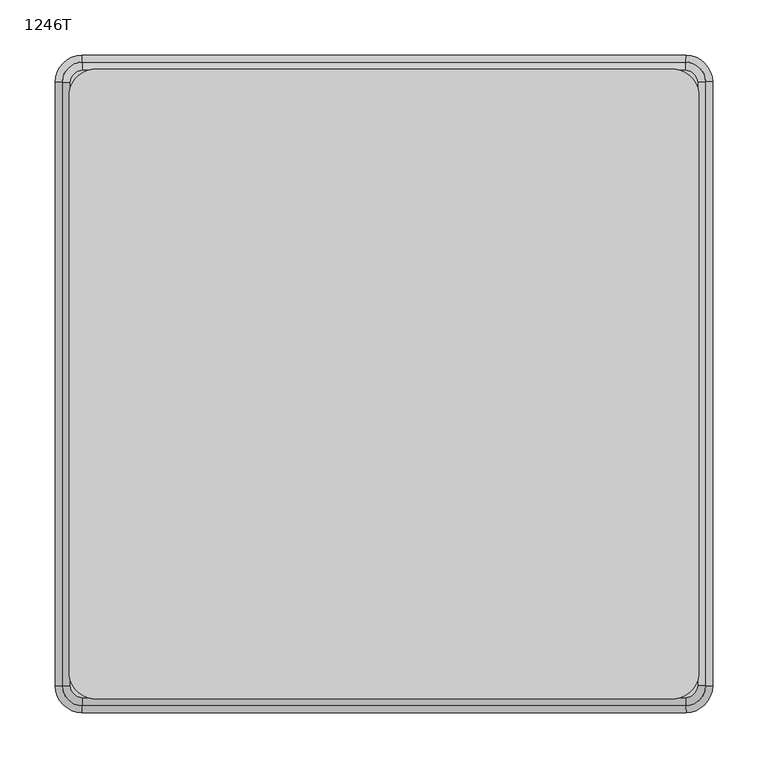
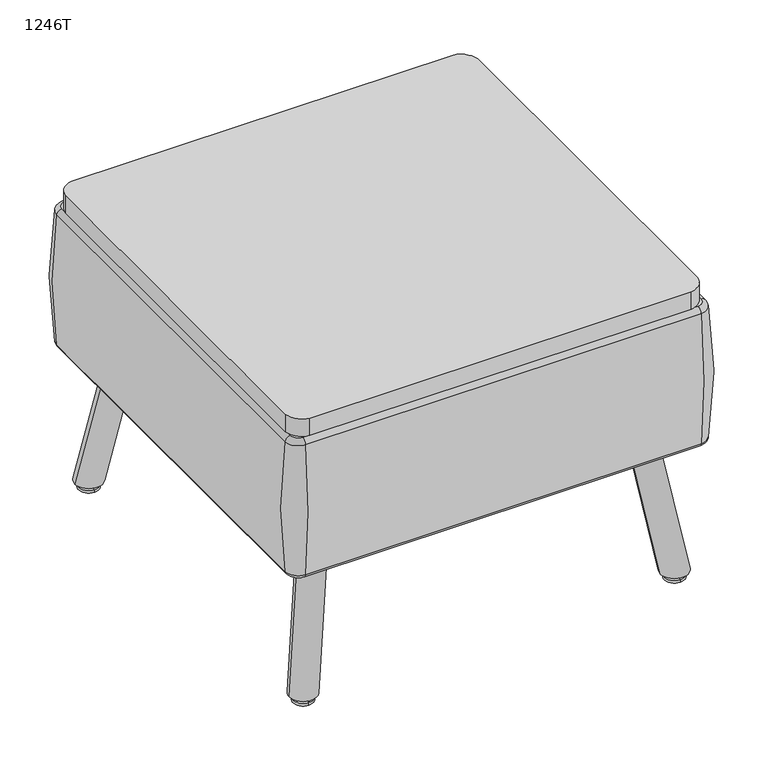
"""IFC4 building model written with IfcOpenShell, lengths in millimetres: furniture geometry, Laguna-Square_Ottomans-With_Legs-ERG : 1246T."""

from ifc_helpers import new_model, si_unit, point, frame, frame_2d, origin, place, context, project, spatial, polyline, circle_curve, ellipse_curve, trimmed, segment, composite_curve, outline, extrude, source, transform, mapped, element, save
from ifc_brep_helpers import plane_surface, cylinder_surface, revolved_surface, spline_surface, advanced_brep


def furniture_1246t_65d32d9d(model_context):
    return source(origin(), model_context, "Body", "SolidModel", [
        extrude(outline(composite_curve([segment(trimmed(circle_curve(frame_2d((-4097.3372587, 668.7509326)), 25.4), [point((-4072.2001244, 665.1061449))], [point((-4093.692471, 643.6137983))], False, "CARTESIAN"), True, "CONTINUOUS"), segment(trimmed(circle_curve(frame_2d((-4357.9421763, 6549.5759155)), 5911.8708069), [point((-4093.692471, 643.6137983))], [point((-4622.1918816, 643.6137983))], False, "CARTESIAN"), True, "CONTINUOUS"), segment(trimmed(circle_curve(frame_2d((-4618.5470939, 668.7509326)), 25.4), [point((-4622.1918816, 643.6137983))], [point((-4643.6842282, 665.1061449))], False, "CARTESIAN"), True, "CONTINUOUS"), segment(trimmed(circle_curve(frame_2d((1262.277889, 929.3558502)), 5911.8708069), [point((-4643.6842282, 665.1061449))], [point((-4643.6842282, 1193.6055555))], False, "CARTESIAN"), True, "CONTINUOUS"), segment(trimmed(circle_curve(frame_2d((-4618.5470939, 1189.9607677)), 25.4), [point((-4643.6842282, 1193.6055555))], [point((-4622.1918816, 1215.0979021))], False, "CARTESIAN"), True, "CONTINUOUS"), segment(trimmed(circle_curve(frame_2d((-4357.9421763, -4690.8642152)), 5911.8708069), [point((-4622.1918816, 1215.0979021))], [point((-4093.692471, 1215.0979021))], False, "CARTESIAN"), True, "CONTINUOUS"), segment(trimmed(circle_curve(frame_2d((-4097.3372587, 1189.9607677)), 25.4), [point((-4093.692471, 1215.0979021))], [point((-4072.2001244, 1193.6055555))], False, "CARTESIAN"), True, "CONTINUOUS"), segment(trimmed(circle_curve(frame_2d((-9978.1622416, 929.3558502)), 5911.8708069), [point((-4072.2001244, 1193.6055555))], [point((-4072.2001244, 665.1061449))], False, "CARTESIAN"), True, "CONTINUOUS")], self_intersect=False)), frame((0.0, 0.0, 406.4), z_axis=(0.0, 0.0, 1.0), x_axis=(1.0, 0.0, 0.0)), (0.0, 0.0, 1.0), 25.4),
        advanced_brep(
        [(-4631.6596005, 1213.9607848, 406.4), (-4642.547111, 1203.0732744, 406.4), (-4642.547111, 655.638426, 406.4), (-4631.6596005, 644.7509155, 406.4), (-4084.2247521, 644.7509155, 406.4), (-4073.3372416, 655.638426, 406.4), (-4073.3372416, 1203.0732744, 406.4), (-4084.2247521, 1213.9607848, 406.4), (-4642.547111, 1203.0732744, 203.2), (-4631.6596005, 1213.9607848, 203.2), (-4084.2247521, 1213.9607848, 203.2), (-4073.3372416, 1203.0732744, 203.2), (-4073.3372416, 655.638426, 203.2), (-4084.2247521, 644.7509155, 203.2), (-4631.6596005, 644.7509155, 203.2), (-4642.547111, 655.638426, 203.2), (-4650.0919814, 1203.4222653, 399.7887299), (-4632.0085914, 1221.5056552, 399.7887299), (-4632.0085914, 1221.5056552, 209.8112701), (-4650.0919814, 1203.4222653, 209.8112701), (-4650.0919814, 655.2894351, 209.8112701), (-4650.0919814, 655.2894351, 399.7887299), (-4632.0085914, 637.2060451, 209.8112701), (-4632.0085914, 637.2060451, 399.7887299), (-4083.8757612, 637.2060451, 209.8112701), (-4083.8757612, 637.2060451, 399.7887299), (-4065.7923712, 655.2894351, 209.8112701), (-4065.7923712, 655.2894351, 399.7887299), (-4065.7923712, 1203.4222653, 209.8112701), (-4065.7923712, 1203.4222653, 399.7887299), (-4083.8757612, 1221.5056552, 209.8112701), (-4083.8757612, 1221.5056552, 399.7887299)],
        [
            (0, 1, circle_curve(frame((-4631.1315702, 1202.5452441, 406.4), z_axis=(0.0, 0.0, 1.0), x_axis=(-0.04620598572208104, 0.9989319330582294, 0.0)), 11.4277464)),
            (1, 2, circle_curve(frame((1274.977889, 929.3558502, 406.4), z_axis=(0.0, 0.0, 1.0), x_axis=(-0.9989319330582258, 0.04620598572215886, 0.0)), 5923.8520706)),
            (2, 3, circle_curve(frame((-4631.1315702, 656.1664563, 406.4), z_axis=(0.0, 0.0, 1.0), x_axis=(-0.9989319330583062, -0.04620598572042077, 0.0)), 11.4277464)),
            (3, 4, circle_curve(frame((-4357.9421763, 6562.2759155, 406.4), z_axis=(0.0, 0.0, 1.0), x_axis=(-0.0462059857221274, -0.9989319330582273, 0.0)), 5923.8520706)),
            (4, 5, circle_curve(frame((-4084.7527824, 656.1664563, 406.4), z_axis=(0.0, 0.0, 1.0), x_axis=(0.04620598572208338, -0.9989319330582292, 0.0)), 11.4277464)),
            (5, 6, circle_curve(frame((-9990.8622416, 929.3558502, 406.4), z_axis=(0.0, 0.0, 1.0), x_axis=(0.9989319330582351, -0.04620598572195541, 0.0)), 5923.8520706)),
            (6, 7, circle_curve(frame((-4084.7527824, 1202.5452441, 406.4), z_axis=(0.0, 0.0, 1.0), x_axis=(0.9989319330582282, 0.046205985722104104, 0.0)), 11.4277464)),
            (7, 0, circle_curve(frame((-4357.9421763, -4703.5642152, 406.4), z_axis=(0.0, 0.0, 1.0), x_axis=(0.046205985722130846, 0.998931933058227, 0.0)), 5923.8520706)),
            (8, 9, circle_curve(frame((-4631.1315702, 1202.5452441, 203.2), z_axis=(0.0, 0.0, -1.0), x_axis=(-0.04620598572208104, 0.9989319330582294, 0.0)), 11.4277464)),
            (9, 10, circle_curve(frame((-4357.9421763, -4703.5642152, 203.2), z_axis=(0.0, 0.0, -1.0), x_axis=(0.046205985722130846, 0.998931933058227, 0.0)), 5923.8520706)),
            (10, 11, circle_curve(frame((-4084.7527824, 1202.5452441, 203.2), z_axis=(0.0, 0.0, -1.0), x_axis=(0.9989319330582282, 0.046205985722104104, 0.0)), 11.4277464)),
            (11, 12, circle_curve(frame((-9990.8622416, 929.3558502, 203.2), z_axis=(0.0, 0.0, -1.0), x_axis=(0.9989319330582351, -0.04620598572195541, 0.0)), 5923.8520706)),
            (12, 13, circle_curve(frame((-4084.7527824, 656.1664563, 203.2), z_axis=(0.0, 0.0, -1.0), x_axis=(0.04620598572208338, -0.9989319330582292, 0.0)), 11.4277464)),
            (13, 14, circle_curve(frame((-4357.9421763, 6562.2759155, 203.2), z_axis=(0.0, 0.0, -1.0), x_axis=(-0.0462059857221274, -0.9989319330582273, 0.0)), 5923.8520706)),
            (14, 15, circle_curve(frame((-4631.1315702, 656.1664563, 203.2), z_axis=(0.0, 0.0, -1.0), x_axis=(-0.9989319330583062, -0.04620598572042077, 0.0)), 11.4277464)),
            (15, 8, circle_curve(frame((1274.977889, 929.3558502, 203.2), z_axis=(0.0, 0.0, -1.0), x_axis=(-0.9989319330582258, 0.04620598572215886, 0.0)), 5923.8520706)),
            (16, 17, circle_curve(frame((-4631.1315702, 1202.5452441, 399.7887299), z_axis=(0.0, 0.0, -1.0), x_axis=(-0.04620598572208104, 0.9989319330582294, 0.0)), 18.9806838)),
            (17, 18, circle_curve(frame((-4599.1452798, 511.0303591, 304.8), z_axis=(-0.9989319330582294, -0.04620598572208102, 0.0), x_axis=(0.04620598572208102, -0.9989319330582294, 0.0)), 717.55)),
            (18, 19, circle_curve(frame((-4631.1315702, 1202.5452441, 209.8112701), z_axis=(0.0, 0.0, 1.0), x_axis=(-0.04620598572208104, 0.9989319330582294, 0.0)), 18.9806838)),
            (19, 16, circle_curve(frame((-3939.6166852, 1170.5589537, 304.8), z_axis=(0.04620598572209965, 0.9989319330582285, 0.0), x_axis=(0.9989319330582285, -0.04620598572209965, 0.0)), 717.55)),
            (16, 1, circle_curve(frame((-4642.547111, 1203.0732744, 398.78), z_axis=(0.04620598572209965, 0.9989319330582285, 0.0), x_axis=(0.9989319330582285, -0.04620598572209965, 0.0)), 7.62)),
            (0, 17, circle_curve(frame((-4631.6596005, 1213.9607848, 398.78), z_axis=(-0.9989319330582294, -0.04620598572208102, 0.0), x_axis=(0.04620598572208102, -0.9989319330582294, 0.0)), 7.62)),
            (18, 9, circle_curve(frame((-4631.6596005, 1213.9607848, 210.82), z_axis=(-0.9989319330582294, -0.04620598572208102, 0.0), x_axis=(0.04620598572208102, -0.9989319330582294, 0.0)), 7.62)),
            (8, 19, circle_curve(frame((-4642.547111, 1203.0732744, 210.82), z_axis=(0.046205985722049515, 0.9989319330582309, 0.0), x_axis=(0.9989319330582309, -0.046205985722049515, 0.0)), 7.62)),
            (19, 20, circle_curve(frame((1274.977889, 929.3558502, 209.8112701), z_axis=(0.0, 0.0, 1.0), x_axis=(-0.9989319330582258, 0.04620598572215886, 0.0)), 5931.405008)),
            (20, 21, circle_curve(frame((-3939.6166852, 688.1527467, 304.8), z_axis=(-0.04620598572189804, 0.9989319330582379, 0.0), x_axis=(0.9989319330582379, 0.04620598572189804, 0.0)), 717.55)),
            (21, 16, circle_curve(frame((1274.977889, 929.3558502, 399.7887299), z_axis=(0.0, 0.0, -1.0), x_axis=(-0.9989319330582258, 0.04620598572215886, 0.0)), 5931.405008)),
            (21, 2, circle_curve(frame((-4642.547111, 655.638426, 398.78), z_axis=(-0.04620598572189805, 0.9989319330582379, 0.0), x_axis=(0.9989319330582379, 0.04620598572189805, 0.0)), 7.62)),
            (15, 20, circle_curve(frame((-4642.547111, 655.638426, 210.82), z_axis=(-0.046205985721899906, 0.9989319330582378, 0.0), x_axis=(0.9989319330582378, 0.046205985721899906, 0.0)), 7.62)),
            (20, 22, circle_curve(frame((-4631.1315702, 656.1664563, 209.8112701), z_axis=(0.0, 0.0, 1.0), x_axis=(-0.9989319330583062, -0.04620598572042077, 0.0)), 18.9806838)),
            (22, 23, circle_curve(frame((-4599.1452798, 1347.6813412, 304.8), z_axis=(-0.9989319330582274, 0.0462059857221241, 0.0), x_axis=(0.0462059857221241, 0.9989319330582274, 0.0)), 717.55)),
            (23, 21, circle_curve(frame((-4631.1315702, 656.1664563, 399.7887299), z_axis=(0.0, 0.0, -1.0), x_axis=(-0.9989319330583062, -0.04620598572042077, 0.0)), 18.9806838)),
            (23, 3, circle_curve(frame((-4631.6596005, 644.7509155, 398.78), z_axis=(-0.9989319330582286, 0.04620598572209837, 0.0), x_axis=(0.04620598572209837, 0.9989319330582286, 0.0)), 7.62)),
            (14, 22, circle_curve(frame((-4631.6596005, 644.7509155, 210.82), z_axis=(-0.998931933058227, 0.04620598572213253, 0.0), x_axis=(0.04620598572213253, 0.998931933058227, 0.0)), 7.62)),
            (22, 24, circle_curve(frame((-4357.9421763, 6562.2759155, 209.8112701), z_axis=(0.0, 0.0, 1.0), x_axis=(-0.0462059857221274, -0.9989319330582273, 0.0)), 5931.405008)),
            (24, 25, circle_curve(frame((-4116.7390728, 1347.6813412, 304.8), z_axis=(-0.998931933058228, -0.04620598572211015, 0.0), x_axis=(-0.04620598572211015, 0.998931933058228, 0.0)), 717.55)),
            (25, 23, circle_curve(frame((-4357.9421763, 6562.2759155, 399.7887299), z_axis=(0.0, 0.0, -1.0), x_axis=(-0.0462059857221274, -0.9989319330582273, 0.0)), 5931.405008)),
            (25, 4, circle_curve(frame((-4084.2247521, 644.7509155, 398.78), z_axis=(-0.998931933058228, -0.04620598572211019, 0.0), x_axis=(-0.04620598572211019, 0.998931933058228, 0.0)), 7.62)),
            (13, 24, circle_curve(frame((-4084.2247521, 644.7509155, 210.82), z_axis=(-0.998931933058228, -0.046205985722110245, 0.0), x_axis=(-0.046205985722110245, 0.998931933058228, 0.0)), 7.62)),
            (24, 26, circle_curve(frame((-4084.7527824, 656.1664563, 209.8112701), z_axis=(0.0, 0.0, 1.0), x_axis=(0.04620598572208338, -0.9989319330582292, 0.0)), 18.9806838)),
            (26, 27, circle_curve(frame((-4776.2676674, 688.1527467, 304.8), z_axis=(-0.046205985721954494, -0.9989319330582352, 0.0), x_axis=(-0.9989319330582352, 0.046205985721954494, 0.0)), 717.55)),
            (27, 25, circle_curve(frame((-4084.7527824, 656.1664563, 399.7887299), z_axis=(0.0, 0.0, -1.0), x_axis=(0.04620598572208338, -0.9989319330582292, 0.0)), 18.9806838)),
            (27, 5, circle_curve(frame((-4073.3372416, 655.638426, 398.78), z_axis=(-0.046205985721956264, -0.9989319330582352, 0.0), x_axis=(-0.9989319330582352, 0.046205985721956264, 0.0)), 7.62)),
            (12, 26, circle_curve(frame((-4073.3372416, 655.638426, 210.82), z_axis=(-0.04620598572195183, -0.9989319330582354, 0.0), x_axis=(-0.9989319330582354, 0.04620598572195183, 0.0)), 7.62)),
            (26, 28, circle_curve(frame((-9990.8622416, 929.3558502, 209.8112701), z_axis=(0.0, 0.0, 1.0), x_axis=(0.9989319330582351, -0.04620598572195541, 0.0)), 5931.405008)),
            (28, 29, circle_curve(frame((-4776.2676674, 1170.5589537, 304.8), z_axis=(0.04620598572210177, -0.9989319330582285, 0.0), x_axis=(-0.9989319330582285, -0.04620598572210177, 0.0)), 717.55)),
            (29, 27, circle_curve(frame((-9990.8622416, 929.3558502, 399.7887299), z_axis=(0.0, 0.0, -1.0), x_axis=(0.9989319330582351, -0.04620598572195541, 0.0)), 5931.405008)),
            (29, 6, circle_curve(frame((-4073.3372416, 1203.0732744, 398.78), z_axis=(0.04620598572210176, -0.9989319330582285, 0.0), x_axis=(-0.9989319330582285, -0.04620598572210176, 0.0)), 7.62)),
            (11, 28, circle_curve(frame((-4073.3372416, 1203.0732744, 210.82), z_axis=(0.04620598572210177, -0.9989319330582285, 0.0), x_axis=(-0.9989319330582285, -0.04620598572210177, 0.0)), 7.62)),
            (28, 30, circle_curve(frame((-4084.7527824, 1202.5452441, 209.8112701), z_axis=(0.0, 0.0, 1.0), x_axis=(0.9989319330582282, 0.046205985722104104, 0.0)), 18.9806838)),
            (30, 31, circle_curve(frame((-4116.7390728, 511.0303591, 304.8), z_axis=(0.9989319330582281, -0.04620598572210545, 0.0), x_axis=(-0.04620598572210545, -0.9989319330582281, 0.0)), 717.55)),
            (31, 29, circle_curve(frame((-4084.7527824, 1202.5452441, 399.7887299), z_axis=(0.0, 0.0, -1.0), x_axis=(0.9989319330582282, 0.046205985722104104, 0.0)), 18.9806838)),
            (31, 7, circle_curve(frame((-4084.2247521, 1213.9607848, 398.78), z_axis=(0.998931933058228, -0.04620598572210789, 0.0), x_axis=(-0.04620598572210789, -0.998931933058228, 0.0)), 7.62)),
            (10, 30, circle_curve(frame((-4084.2247521, 1213.9607848, 210.82), z_axis=(0.9989319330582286, -0.04620598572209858, 0.0), x_axis=(-0.04620598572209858, -0.9989319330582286, 0.0)), 7.62)),
            (17, 31, circle_curve(frame((-4357.9421763, -4703.5642152, 399.7887299), z_axis=(0.0, 0.0, -1.0), x_axis=(0.046205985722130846, 0.998931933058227, 0.0)), 5931.405008)),
            (30, 18, circle_curve(frame((-4357.9421763, -4703.5642152, 209.8112701), z_axis=(0.0, 0.0, 1.0), x_axis=(0.046205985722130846, 0.998931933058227, 0.0)), 5931.405008)),
        ],
        [
            plane_surface(frame((-4619.7038238, 1202.5452441, 406.4), z_axis=(0.0, 0.0, 1.0), x_axis=(0.0, 1.0, 0.0))),
            plane_surface(frame((-4619.7038238, 1202.5452441, 203.2), z_axis=(0.0, 0.0, -1.0), x_axis=(0.0, -1.0, 0.0))),
            revolved_surface(trimmed(ellipse_curve(frame((-4599.1452798, 511.0303591, 304.8), z_axis=(0.9989319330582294, 0.04620598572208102, 0.0), x_axis=(0.04620598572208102, -0.9989319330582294, 0.0)), 717.55, 717.55), [point((-4632.0085914, 1221.5056552, 209.8112701))], [point((-4632.0085914, 1221.5056552, 399.7887299))], True, "CARTESIAN"), (-4631.1315702, 1202.5452441, 0.0), (0.0, 0.0, 1.0)),
            revolved_surface(trimmed(ellipse_curve(frame((-4631.6596005, 1213.9607848, 398.78), z_axis=(0.9989319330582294, 0.04620598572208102, 0.0), x_axis=(0.04620598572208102, -0.9989319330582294, 0.0)), 7.62, 7.62), [point((-4632.0085914, 1221.5056552, 399.7887299))], [point((-4631.6596005, 1213.9607848, 406.4))], True, "CARTESIAN"), (-4631.1315702, 1202.5452441, 0.0), (0.0, 0.0, 1.0)),
            revolved_surface(trimmed(ellipse_curve(frame((-4631.6596005, 1213.9607848, 210.82), z_axis=(0.9989319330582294, 0.04620598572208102, 0.0), x_axis=(0.04620598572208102, -0.9989319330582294, 0.0)), 7.62, 7.62), [point((-4631.6596005, 1213.9607848, 203.2))], [point((-4632.0085914, 1221.5056552, 209.8112701))], True, "CARTESIAN"), (-4631.1315702, 1202.5452441, 0.0), (0.0, 0.0, 1.0)),
            revolved_surface(trimmed(ellipse_curve(frame((-3939.6166852, 1170.5589537, 304.8), z_axis=(0.046205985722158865, 0.9989319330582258, 0.0), x_axis=(0.9989319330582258, -0.046205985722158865, 0.0)), 717.55, 717.55), [point((-4650.0919814, 1203.4222653, 209.8112701))], [point((-4650.0919814, 1203.4222653, 399.7887299))], True, "CARTESIAN"), (1274.977889, 929.3558502, 0.0), (0.0, 0.0, 1.0)),
            revolved_surface(trimmed(ellipse_curve(frame((-4642.547111, 1203.0732744, 398.78), z_axis=(0.046205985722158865, 0.9989319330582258, 0.0), x_axis=(0.9989319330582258, -0.046205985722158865, 0.0)), 7.62, 7.62), [point((-4650.0919814, 1203.4222653, 399.7887299))], [point((-4642.547111, 1203.0732744, 406.4))], True, "CARTESIAN"), (1274.977889, 929.3558502, 0.0), (0.0, 0.0, 1.0)),
            revolved_surface(trimmed(ellipse_curve(frame((-4642.547111, 1203.0732744, 210.82), z_axis=(0.046205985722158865, 0.9989319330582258, 0.0), x_axis=(0.9989319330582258, -0.046205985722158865, 0.0)), 7.62, 7.62), [point((-4642.547111, 1203.0732744, 203.2))], [point((-4650.0919814, 1203.4222653, 209.8112701))], True, "CARTESIAN"), (1274.977889, 929.3558502, 0.0), (0.0, 0.0, 1.0)),
            revolved_surface(trimmed(ellipse_curve(frame((-3939.6166852, 688.1527467, 304.8), z_axis=(-0.046205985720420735, 0.9989319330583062, 0.0), x_axis=(0.9989319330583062, 0.046205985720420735, 0.0)), 717.55, 717.55), [point((-4650.0919814, 655.2894351, 209.8112701))], [point((-4650.0919814, 655.2894351, 399.7887299))], True, "CARTESIAN"), (-4631.1315702, 656.1664563, 0.0), (0.0, 0.0, 1.0)),
            revolved_surface(trimmed(ellipse_curve(frame((-4642.547111, 655.638426, 398.78), z_axis=(-0.046205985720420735, 0.9989319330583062, 0.0), x_axis=(0.9989319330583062, 0.046205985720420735, 0.0)), 7.62, 7.62), [point((-4650.0919814, 655.2894351, 399.7887299))], [point((-4642.547111, 655.638426, 406.4))], True, "CARTESIAN"), (-4631.1315702, 656.1664563, 0.0), (0.0, 0.0, 1.0)),
            revolved_surface(trimmed(ellipse_curve(frame((-4642.547111, 655.638426, 210.82), z_axis=(-0.046205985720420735, 0.9989319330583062, 0.0), x_axis=(0.9989319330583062, 0.046205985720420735, 0.0)), 7.62, 7.62), [point((-4642.547111, 655.638426, 203.2))], [point((-4650.0919814, 655.2894351, 209.8112701))], True, "CARTESIAN"), (-4631.1315702, 656.1664563, 0.0), (0.0, 0.0, 1.0)),
            revolved_surface(trimmed(ellipse_curve(frame((-4599.1452798, 1347.6813412, 304.8), z_axis=(-0.9989319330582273, 0.04620598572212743, 0.0), x_axis=(0.04620598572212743, 0.9989319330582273, 0.0)), 717.55, 717.55), [point((-4632.0085914, 637.2060451, 209.8112701))], [point((-4632.0085914, 637.2060451, 399.7887299))], True, "CARTESIAN"), (-4357.9421763, 6562.2759155, 0.0), (0.0, 0.0, 1.0)),
            revolved_surface(trimmed(ellipse_curve(frame((-4631.6596005, 644.7509155, 398.78), z_axis=(-0.9989319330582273, 0.04620598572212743, 0.0), x_axis=(0.04620598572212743, 0.9989319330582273, 0.0)), 7.62, 7.62), [point((-4632.0085914, 637.2060451, 399.7887299))], [point((-4631.6596005, 644.7509155, 406.4))], True, "CARTESIAN"), (-4357.9421763, 6562.2759155, 0.0), (0.0, 0.0, 1.0)),
            revolved_surface(trimmed(ellipse_curve(frame((-4631.6596005, 644.7509155, 210.82), z_axis=(-0.9989319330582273, 0.04620598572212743, 0.0), x_axis=(0.04620598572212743, 0.9989319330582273, 0.0)), 7.62, 7.62), [point((-4631.6596005, 644.7509155, 203.2))], [point((-4632.0085914, 637.2060451, 209.8112701))], True, "CARTESIAN"), (-4357.9421763, 6562.2759155, 0.0), (0.0, 0.0, 1.0)),
            revolved_surface(trimmed(ellipse_curve(frame((-4116.7390728, 1347.6813412, 304.8), z_axis=(-0.9989319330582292, -0.046205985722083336, 0.0), x_axis=(-0.046205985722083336, 0.9989319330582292, 0.0)), 717.55, 717.55), [point((-4083.8757612, 637.2060451, 209.8112701))], [point((-4083.8757612, 637.2060451, 399.7887299))], True, "CARTESIAN"), (-4084.7527824, 656.1664563, 0.0), (0.0, 0.0, 1.0)),
            revolved_surface(trimmed(ellipse_curve(frame((-4084.2247521, 644.7509155, 398.78), z_axis=(-0.9989319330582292, -0.046205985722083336, 0.0), x_axis=(-0.046205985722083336, 0.9989319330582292, 0.0)), 7.62, 7.62), [point((-4083.8757612, 637.2060451, 399.7887299))], [point((-4084.2247521, 644.7509155, 406.4))], True, "CARTESIAN"), (-4084.7527824, 656.1664563, 0.0), (0.0, 0.0, 1.0)),
            revolved_surface(trimmed(ellipse_curve(frame((-4084.2247521, 644.7509155, 210.82), z_axis=(-0.9989319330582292, -0.046205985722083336, 0.0), x_axis=(-0.046205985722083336, 0.9989319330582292, 0.0)), 7.62, 7.62), [point((-4084.2247521, 644.7509155, 203.2))], [point((-4083.8757612, 637.2060451, 209.8112701))], True, "CARTESIAN"), (-4084.7527824, 656.1664563, 0.0), (0.0, 0.0, 1.0)),
            revolved_surface(trimmed(ellipse_curve(frame((-4776.2676674, 688.1527467, 304.8), z_axis=(-0.04620598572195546, -0.9989319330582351, 0.0), x_axis=(-0.9989319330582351, 0.04620598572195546, 0.0)), 717.55, 717.55), [point((-4065.7923712, 655.2894351, 209.8112701))], [point((-4065.7923712, 655.2894351, 399.7887299))], True, "CARTESIAN"), (-9990.8622416, 929.3558502, 0.0), (0.0, 0.0, 1.0)),
            revolved_surface(trimmed(ellipse_curve(frame((-4073.3372416, 655.638426, 398.78), z_axis=(-0.04620598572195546, -0.9989319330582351, 0.0), x_axis=(-0.9989319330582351, 0.04620598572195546, 0.0)), 7.62, 7.62), [point((-4065.7923712, 655.2894351, 399.7887299))], [point((-4073.3372416, 655.638426, 406.4))], True, "CARTESIAN"), (-9990.8622416, 929.3558502, 0.0), (0.0, 0.0, 1.0)),
            revolved_surface(trimmed(ellipse_curve(frame((-4073.3372416, 655.638426, 210.82), z_axis=(-0.04620598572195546, -0.9989319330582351, 0.0), x_axis=(-0.9989319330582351, 0.04620598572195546, 0.0)), 7.62, 7.62), [point((-4073.3372416, 655.638426, 203.2))], [point((-4065.7923712, 655.2894351, 209.8112701))], True, "CARTESIAN"), (-9990.8622416, 929.3558502, 0.0), (0.0, 0.0, 1.0)),
            revolved_surface(trimmed(ellipse_curve(frame((-4776.2676674, 1170.5589537, 304.8), z_axis=(0.04620598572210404, -0.9989319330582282, 0.0), x_axis=(-0.9989319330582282, -0.04620598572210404, 0.0)), 717.55, 717.55), [point((-4065.7923712, 1203.4222653, 209.8112701))], [point((-4065.7923712, 1203.4222653, 399.7887299))], True, "CARTESIAN"), (-4084.7527824, 1202.5452441, 0.0), (0.0, 0.0, 1.0)),
            revolved_surface(trimmed(ellipse_curve(frame((-4073.3372416, 1203.0732744, 398.78), z_axis=(0.04620598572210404, -0.9989319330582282, 0.0), x_axis=(-0.9989319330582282, -0.04620598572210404, 0.0)), 7.62, 7.62), [point((-4065.7923712, 1203.4222653, 399.7887299))], [point((-4073.3372416, 1203.0732744, 406.4))], True, "CARTESIAN"), (-4084.7527824, 1202.5452441, 0.0), (0.0, 0.0, 1.0)),
            revolved_surface(trimmed(ellipse_curve(frame((-4073.3372416, 1203.0732744, 210.82), z_axis=(0.04620598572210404, -0.9989319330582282, 0.0), x_axis=(-0.9989319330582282, -0.04620598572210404, 0.0)), 7.62, 7.62), [point((-4073.3372416, 1203.0732744, 203.2))], [point((-4065.7923712, 1203.4222653, 209.8112701))], True, "CARTESIAN"), (-4084.7527824, 1202.5452441, 0.0), (0.0, 0.0, 1.0)),
            revolved_surface(trimmed(ellipse_curve(frame((-4116.7390728, 511.0303591, 304.8), z_axis=(0.998931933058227, -0.04620598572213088, 0.0), x_axis=(-0.04620598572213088, -0.998931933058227, 0.0)), 717.55, 717.55), [point((-4083.8757612, 1221.5056552, 209.8112701))], [point((-4083.8757612, 1221.5056552, 399.7887299))], True, "CARTESIAN"), (-4357.9421763, -4703.5642152, 0.0), (0.0, 0.0, 1.0)),
            revolved_surface(trimmed(ellipse_curve(frame((-4084.2247521, 1213.9607848, 398.78), z_axis=(0.998931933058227, -0.04620598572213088, 0.0), x_axis=(-0.04620598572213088, -0.998931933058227, 0.0)), 7.62, 7.62), [point((-4083.8757612, 1221.5056552, 399.7887299))], [point((-4084.2247521, 1213.9607848, 406.4))], True, "CARTESIAN"), (-4357.9421763, -4703.5642152, 0.0), (0.0, 0.0, 1.0)),
            revolved_surface(trimmed(ellipse_curve(frame((-4084.2247521, 1213.9607848, 210.82), z_axis=(0.998931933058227, -0.04620598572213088, 0.0), x_axis=(-0.04620598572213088, -0.998931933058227, 0.0)), 7.62, 7.62), [point((-4084.2247521, 1213.9607848, 203.2))], [point((-4083.8757612, 1221.5056552, 209.8112701))], True, "CARTESIAN"), (-4357.9421763, -4703.5642152, 0.0), (0.0, 0.0, 1.0)),
        ],
        [
            (0, [[1, 2, 3, 4, 5, 6, 7, 8]]),
            (1, [[9, 10, 11, 12, 13, 14, 15, 16]]),
            (2, [[17, 18, 19, 20]]),
            (3, [[-17, 21, -1, 22]]),
            (4, [[-19, 23, -9, 24]]),
            (5, [[-20, 25, 26, 27]]),
            (6, [[-21, -27, 28, -2]]),
            (7, [[-24, -16, 29, -25]]),
            (8, [[-26, 30, 31, 32]]),
            (9, [[-28, -32, 33, -3]]),
            (10, [[-29, -15, 34, -30]]),
            (11, [[-31, 35, 36, 37]]),
            (12, [[-33, -37, 38, -4]]),
            (13, [[-34, -14, 39, -35]]),
            (14, [[-36, 40, 41, 42]]),
            (15, [[-38, -42, 43, -5]]),
            (16, [[-39, -13, 44, -40]]),
            (17, [[-41, 45, 46, 47]]),
            (18, [[-43, -47, 48, -6]]),
            (19, [[-44, -12, 49, -45]]),
            (20, [[-46, 50, 51, 52]]),
            (21, [[-48, -52, 53, -7]]),
            (22, [[-49, -11, 54, -50]]),
            (23, [[-18, 55, -51, 56]]),
            (24, [[-22, -8, -53, -55]]),
            (25, [[-23, -56, -54, -10]]),
        ],
    ),
        extrude(outline(composite_curve([segment(trimmed(circle_curve(frame_2d((-4578.2187381, 1192.7376413)), 5.08), [point((-4581.8108405, 1196.3297438))], [point((-4574.6266356, 1196.3297438))], False, "CARTESIAN"), True, "CONTINUOUS"), segment(polyline([(-4574.6266356, 1196.3297438), (-4545.889816, 1167.5929242)]), True, "CONTINUOUS"), segment(trimmed(circle_curve(frame_2d((-4549.4819185, 1164.0008217)), 5.08), [point((-4545.889816, 1167.5929242))], [point((-4545.889816, 1160.4087193))], False, "CARTESIAN"), True, "CONTINUOUS"), segment(polyline([(-4545.889816, 1160.4087193), (-4588.9950454, 1117.3034899)]), True, "CONTINUOUS"), segment(trimmed(circle_curve(frame_2d((-4592.5871479, 1120.8955923)), 5.08), [point((-4588.9950454, 1117.3034899))], [point((-4596.1792503, 1117.3034899))], False, "CARTESIAN"), True, "CONTINUOUS"), segment(polyline([(-4596.1792503, 1117.3034899), (-4624.9160699, 1146.0403095)]), True, "CONTINUOUS"), segment(trimmed(circle_curve(frame_2d((-4621.3239674, 1149.6324119)), 5.08), [point((-4624.9160699, 1146.0403095))], [point((-4624.9160699, 1153.2245144))], False, "CARTESIAN"), True, "CONTINUOUS"), segment(polyline([(-4624.9160699, 1153.2245144), (-4581.8108405, 1196.3297438)]), True, "CONTINUOUS")], self_intersect=False)), frame((0.0, 0.0, 200.66), z_axis=(0.0, 0.0, 1.0), x_axis=(1.0, 0.0, 0.0)), (0.0, 0.0, 1.0), 2.54),
        extrude(outline(composite_curve([segment(polyline([(-4134.0735121, 1196.3297438), (-4090.9682827, 1153.2245144)]), True, "CONTINUOUS"), segment(trimmed(circle_curve(frame_2d((-4094.5603852, 1149.6324119)), 5.08), [point((-4090.9682827, 1153.2245144))], [point((-4090.9682827, 1146.0403095))], False, "CARTESIAN"), True, "CONTINUOUS"), segment(polyline([(-4090.9682827, 1146.0403095), (-4119.7051023, 1117.3034899)]), True, "CONTINUOUS"), segment(trimmed(circle_curve(frame_2d((-4123.2972048, 1120.8955923)), 5.08), [point((-4119.7051023, 1117.3034899))], [point((-4126.8893072, 1117.3034899))], False, "CARTESIAN"), True, "CONTINUOUS"), segment(polyline([(-4126.8893072, 1117.3034899), (-4169.9945366, 1160.4087193)]), True, "CONTINUOUS"), segment(trimmed(circle_curve(frame_2d((-4166.4024341, 1164.0008217)), 5.08), [point((-4169.9945366, 1160.4087193))], [point((-4169.9945366, 1167.5929242))], False, "CARTESIAN"), True, "CONTINUOUS"), segment(polyline([(-4169.9945366, 1167.5929242), (-4141.257717, 1196.3297438)]), True, "CONTINUOUS"), segment(trimmed(circle_curve(frame_2d((-4137.6656145, 1192.7376413)), 5.08), [point((-4141.257717, 1196.3297438))], [point((-4134.0735121, 1196.3297438))], False, "CARTESIAN"), True, "CONTINUOUS")], self_intersect=False)), frame((0.0, 0.0, 200.66), z_axis=(0.0, 0.0, 1.0), x_axis=(1.0, 0.0, 0.0)), (0.0, 0.0, 1.0), 2.54),
        extrude(outline(composite_curve([segment(trimmed(circle_curve(frame_2d((-4094.5603852, 709.0792884)), 5.08), [point((-4090.9682827, 712.6713909))], [point((-4090.9682827, 705.487186))], False, "CARTESIAN"), True, "CONTINUOUS"), segment(polyline([(-4090.9682827, 705.487186), (-4134.0735121, 662.3819566)]), True, "CONTINUOUS"), segment(trimmed(circle_curve(frame_2d((-4137.6656145, 665.974059)), 5.08), [point((-4134.0735121, 662.3819566))], [point((-4141.257717, 662.3819566))], False, "CARTESIAN"), True, "CONTINUOUS"), segment(polyline([(-4141.257717, 662.3819566), (-4169.9945366, 691.1187762)]), True, "CONTINUOUS"), segment(trimmed(circle_curve(frame_2d((-4166.4024341, 694.7108786)), 5.08), [point((-4169.9945366, 691.1187762))], [point((-4169.9945366, 698.3029811))], False, "CARTESIAN"), True, "CONTINUOUS"), segment(polyline([(-4169.9945366, 698.3029811), (-4126.8893072, 741.4082105)]), True, "CONTINUOUS"), segment(trimmed(circle_curve(frame_2d((-4123.2972048, 737.816108)), 5.08), [point((-4126.8893072, 741.4082105))], [point((-4119.7051023, 741.4082105))], False, "CARTESIAN"), True, "CONTINUOUS"), segment(polyline([(-4119.7051023, 741.4082105), (-4090.9682827, 712.6713909)]), True, "CONTINUOUS")], self_intersect=False)), frame((0.0, 0.0, 200.66), z_axis=(0.0, 0.0, 1.0), x_axis=(1.0, 0.0, 0.0)), (0.0, 0.0, 1.0), 2.54),
        extrude(outline(composite_curve([segment(polyline([(-4588.9950454, 741.4082105), (-4545.889816, 698.3029811)]), True, "CONTINUOUS"), segment(trimmed(circle_curve(frame_2d((-4549.4819185, 694.7108786)), 5.08), [point((-4545.889816, 698.3029811))], [point((-4545.889816, 691.1187762))], False, "CARTESIAN"), True, "CONTINUOUS"), segment(polyline([(-4545.889816, 691.1187762), (-4574.6266356, 662.3819566)]), True, "CONTINUOUS"), segment(trimmed(circle_curve(frame_2d((-4578.2187381, 665.974059)), 5.08), [point((-4574.6266356, 662.3819566))], [point((-4581.8108405, 662.3819566))], False, "CARTESIAN"), True, "CONTINUOUS"), segment(polyline([(-4581.8108405, 662.3819566), (-4624.9160699, 705.487186)]), True, "CONTINUOUS"), segment(trimmed(circle_curve(frame_2d((-4621.3239674, 709.0792884)), 5.08), [point((-4624.9160699, 705.487186))], [point((-4624.9160699, 712.6713909))], False, "CARTESIAN"), True, "CONTINUOUS"), segment(polyline([(-4624.9160699, 712.6713909), (-4596.1792503, 741.4082105)]), True, "CONTINUOUS"), segment(trimmed(circle_curve(frame_2d((-4592.5871479, 737.816108)), 5.08), [point((-4596.1792503, 741.4082105))], [point((-4588.9950454, 741.4082105))], False, "CARTESIAN"), True, "CONTINUOUS")], self_intersect=False)), frame((0.0, 0.0, 200.66), z_axis=(0.0, 0.0, 1.0), x_axis=(1.0, 0.0, 0.0)), (0.0, 0.0, 1.0), 2.54),
        advanced_brep(
        [(-4615.1048436, 676.436231, 10.16), (-4615.1048436, 667.9501347, 10.16), (-4615.1048436, 667.9501347, 3.9615026), (-4615.1048436, 676.436231, 3.9615026), (-4615.1048436, 658.1148294, 3.9615026), (-4615.1048436, 686.2715363, 3.9615026), (-4615.1048436, 658.1148294, 0.0), (-4615.1048436, 686.2715363, 0.0), (-4615.1048436, 672.1931828, 0.0), (-4615.1048436, 672.1931828, 10.16)],
        [
            (0, 1, circle_curve(frame((-4615.1048436, 672.1931828, 10.16), z_axis=(0.0, 0.0, -1.0), x_axis=(0.0, -1.0, 0.0)), 4.2430482)),
            (1, 2),
            (2, 3, circle_curve(frame((-4615.1048436, 672.1931828, 3.9615026), z_axis=(0.0, 0.0, 1.0), x_axis=(0.0, -1.0, 0.0)), 4.2430482)),
            (3, 0),
            (1, 0, circle_curve(frame((-4615.1048436, 672.1931828, 10.16), z_axis=(0.0, 0.0, -1.0), x_axis=(0.0, -1.0, 0.0)), 4.2430482)),
            (3, 2, circle_curve(frame((-4615.1048436, 672.1931828, 3.9615026), z_axis=(0.0, 0.0, 1.0), x_axis=(0.0, -1.0, 0.0)), 4.2430482)),
            (2, 4),
            (4, 5, circle_curve(frame((-4615.1048436, 672.1931828, 3.9615026), z_axis=(0.0, 0.0, 1.0), x_axis=(0.0, -1.0, 0.0)), 14.0783534)),
            (5, 3),
            (5, 4, circle_curve(frame((-4615.1048436, 672.1931828, 3.9615026), z_axis=(0.0, 0.0, 1.0), x_axis=(0.0, -1.0, 0.0)), 14.0783534)),
            (4, 6),
            (6, 7, circle_curve(frame((-4615.1048436, 672.1931828, 0.0), z_axis=(0.0, 0.0, 1.0), x_axis=(0.0, -1.0, 0.0)), 14.0783534)),
            (7, 5),
            (7, 6, circle_curve(frame((-4615.1048436, 672.1931828, 0.0), z_axis=(0.0, 0.0, 1.0), x_axis=(0.0, -1.0, 0.0)), 14.0783534)),
            (6, 8),
            (8, 7),
            (9, 1),
            (0, 9),
        ],
        [
            cylinder_surface(frame((-4615.1048436, 672.1931828, 20.9252452), z_axis=(0.0, 0.0, 1.0), x_axis=(0.0, -1.0, 0.0)), 4.2430482),
            plane_surface(frame((-4615.1048436, 672.1931828, 3.9615026), z_axis=(0.0, 0.0, 1.0), x_axis=(0.0, -1.0, 0.0))),
            cylinder_surface(frame((-4615.1048436, 672.1931828, 20.9252452), z_axis=(0.0, 0.0, 1.0), x_axis=(0.0, -1.0, 0.0)), 14.0783534),
            plane_surface(frame((-4615.1048436, 672.1931828, 0.0), z_axis=(0.0, 0.0, -1.0), x_axis=(0.0, -1.0, 0.0))),
            plane_surface(frame((-4615.1048436, 672.1931828, 10.16), z_axis=(0.0, 0.0, 1.0), x_axis=(0.0, -1.0, 0.0))),
        ],
        [
            (0, [[1, 2, 3, 4]]),
            (0, [[5, -4, 6, -2]]),
            (1, [[-3, 7, 8, 9]]),
            (1, [[-6, -9, 10, -7]]),
            (2, [[-8, 11, 12, 13]]),
            (2, [[-10, -13, 14, -11]]),
            (3, [[-12, 15, 16]]),
            (3, [[-14, -16, -15]]),
            (4, [[17, -1, 18]]),
            (4, [[-18, -5, -17]]),
        ],
    ),
        advanced_brep(
        [(-4615.1048436, 1190.7615656, 3.9615026), (-4615.1048436, 1182.2754693, 3.9615026), (-4615.1048436, 1172.4401641, 3.9615026), (-4615.1048436, 1200.5968709, 3.9615026), (-4615.1048436, 1172.4401641, 0.0), (-4615.1048436, 1200.5968709, 0.0), (-4615.1048436, 1186.5185175, 0.0), (-4615.1048436, 1186.5185175, 10.16), (-4615.1048436, 1182.2754693, 10.16), (-4615.1048436, 1190.7615656, 10.16)],
        [
            (0, 1, circle_curve(frame((-4615.1048436, 1186.5185175, 3.9615026), z_axis=(0.0, 0.0, -1.0), x_axis=(0.0, -1.0, 0.0)), 4.2430481)),
            (1, 2),
            (2, 3, circle_curve(frame((-4615.1048436, 1186.5185175, 3.9615026), z_axis=(0.0, 0.0, 1.0), x_axis=(0.0, -1.0, 0.0)), 14.0783534)),
            (3, 0),
            (1, 0, circle_curve(frame((-4615.1048436, 1186.5185175, 3.9615026), z_axis=(0.0, 0.0, -1.0), x_axis=(0.0, -1.0, 0.0)), 4.2430481)),
            (3, 2, circle_curve(frame((-4615.1048436, 1186.5185175, 3.9615026), z_axis=(0.0, 0.0, 1.0), x_axis=(0.0, -1.0, 0.0)), 14.0783534)),
            (2, 4),
            (4, 5, circle_curve(frame((-4615.1048436, 1186.5185175, 0.0), z_axis=(0.0, 0.0, 1.0), x_axis=(0.0, -1.0, 0.0)), 14.0783534)),
            (5, 3),
            (5, 4, circle_curve(frame((-4615.1048436, 1186.5185175, 0.0), z_axis=(0.0, 0.0, 1.0), x_axis=(0.0, -1.0, 0.0)), 14.0783534)),
            (4, 6),
            (6, 5),
            (7, 8),
            (8, 9, circle_curve(frame((-4615.1048436, 1186.5185175, 10.16), z_axis=(0.0, 0.0, 1.0), x_axis=(0.0, -1.0, 0.0)), 4.2430481)),
            (9, 7),
            (9, 8, circle_curve(frame((-4615.1048436, 1186.5185175, 10.16), z_axis=(0.0, 0.0, 1.0), x_axis=(0.0, -1.0, 0.0)), 4.2430481)),
            (8, 1),
            (0, 9),
        ],
        [
            plane_surface(frame((-4615.1048436, 1186.5185175, 3.9615026), z_axis=(0.0, 0.0, 1.0), x_axis=(0.0, -1.0, 0.0))),
            cylinder_surface(frame((-4615.1048436, 1186.5185175, 29.21), z_axis=(0.0, 0.0, 1.0), x_axis=(0.0, -1.0, 0.0)), 14.0783534),
            plane_surface(frame((-4615.1048436, 1186.5185175, 0.0), z_axis=(0.0, 0.0, -1.0), x_axis=(0.0, -1.0, 0.0))),
            plane_surface(frame((-4615.1048436, 1186.5185175, 10.16), z_axis=(0.0, 0.0, 1.0), x_axis=(0.0, -1.0, 0.0))),
            cylinder_surface(frame((-4615.1048436, 1186.5185175, 29.21), z_axis=(0.0, 0.0, 1.0), x_axis=(0.0, -1.0, 0.0)), 4.2430481),
        ],
        [
            (0, [[1, 2, 3, 4]]),
            (0, [[5, -4, 6, -2]]),
            (1, [[-3, 7, 8, 9]]),
            (1, [[-6, -9, 10, -7]]),
            (2, [[-8, 11, 12]]),
            (2, [[-10, -12, -11]]),
            (3, [[13, 14, 15]]),
            (3, [[-15, 16, -13]]),
            (4, [[-14, 17, -1, 18]]),
            (4, [[-16, -18, -5, -17]]),
        ],
    ),
        advanced_brep(
        [(-4100.779509, 676.436231, 3.9615026), (-4100.779509, 667.9501347, 3.9615026), (-4100.779509, 667.9501347, 10.16), (-4100.779509, 676.436231, 10.16), (-4100.779509, 686.2715363, 3.9615026), (-4100.779509, 658.1148294, 3.9615026), (-4100.779509, 686.2715363, 0.0), (-4100.779509, 658.1148294, 0.0), (-4100.779509, 672.1931828, 0.0), (-4100.779509, 672.1931828, 10.16)],
        [
            (0, 1, circle_curve(frame((-4100.779509, 672.1931828, 3.9615026), z_axis=(0.0, 0.0, 1.0), x_axis=(0.0, -1.0, 0.0)), 4.2430482)),
            (1, 2),
            (2, 3, circle_curve(frame((-4100.779509, 672.1931828, 10.16), z_axis=(0.0, 0.0, -1.0), x_axis=(0.0, -1.0, 0.0)), 4.2430482)),
            (3, 0),
            (1, 0, circle_curve(frame((-4100.779509, 672.1931828, 3.9615026), z_axis=(0.0, 0.0, 1.0), x_axis=(0.0, -1.0, 0.0)), 4.2430482)),
            (3, 2, circle_curve(frame((-4100.779509, 672.1931828, 10.16), z_axis=(0.0, 0.0, -1.0), x_axis=(0.0, -1.0, 0.0)), 4.2430482)),
            (4, 5, circle_curve(frame((-4100.779509, 672.1931828, 3.9615026), z_axis=(0.0, 0.0, 1.0), x_axis=(0.0, -1.0, 0.0)), 14.0783534)),
            (5, 1),
            (0, 4),
            (5, 4, circle_curve(frame((-4100.779509, 672.1931828, 3.9615026), z_axis=(0.0, 0.0, 1.0), x_axis=(0.0, -1.0, 0.0)), 14.0783534)),
            (6, 7, circle_curve(frame((-4100.779509, 672.1931828, 0.0), z_axis=(0.0, 0.0, 1.0), x_axis=(0.0, -1.0, 0.0)), 14.0783534)),
            (7, 5),
            (4, 6),
            (7, 6, circle_curve(frame((-4100.779509, 672.1931828, 0.0), z_axis=(0.0, 0.0, 1.0), x_axis=(0.0, -1.0, 0.0)), 14.0783534)),
            (8, 7),
            (6, 8),
            (2, 9),
            (9, 3),
        ],
        [
            cylinder_surface(frame((-4100.779509, 672.1931828, 20.9252452), z_axis=(0.0, 0.0, -1.0), x_axis=(0.0, -1.0, 0.0)), 4.2430482),
            plane_surface(frame((-4100.779509, 672.1931828, 3.9615026), z_axis=(0.0, 0.0, 1.0), x_axis=(0.0, -1.0, 0.0))),
            cylinder_surface(frame((-4100.779509, 672.1931828, 20.9252452), z_axis=(0.0, 0.0, -1.0), x_axis=(0.0, -1.0, 0.0)), 14.0783534),
            plane_surface(frame((-4100.779509, 672.1931828, 0.0), z_axis=(0.0, 0.0, -1.0), x_axis=(0.0, -1.0, 0.0))),
            plane_surface(frame((-4100.779509, 672.1931828, 10.16), z_axis=(0.0, 0.0, 1.0), x_axis=(0.0, -1.0, 0.0))),
        ],
        [
            (0, [[1, 2, 3, 4]]),
            (0, [[5, -4, 6, -2]]),
            (1, [[7, 8, -1, 9]]),
            (1, [[10, -9, -5, -8]]),
            (2, [[11, 12, -7, 13]]),
            (2, [[14, -13, -10, -12]]),
            (3, [[15, -11, 16]]),
            (3, [[-16, -14, -15]]),
            (4, [[-3, 17, 18]]),
            (4, [[-6, -18, -17]]),
        ],
    ),
        advanced_brep(
        [(-4100.779509, 1200.5968709, 3.9615026), (-4100.779509, 1172.4401641, 3.9615026), (-4100.779509, 1182.2754693, 3.9615026), (-4100.779509, 1190.7615656, 3.9615026), (-4100.779509, 1200.5968709, 0.0), (-4100.779509, 1172.4401641, 0.0), (-4100.779509, 1186.5185175, 0.0), (-4100.779509, 1190.7615656, 10.16), (-4100.779509, 1182.2754693, 10.16), (-4100.779509, 1186.5185175, 10.16)],
        [
            (0, 1, circle_curve(frame((-4100.779509, 1186.5185175, 3.9615026), z_axis=(0.0, 0.0, 1.0), x_axis=(0.0, -1.0, 0.0)), 14.0783534)),
            (1, 2),
            (2, 3, circle_curve(frame((-4100.779509, 1186.5185175, 3.9615026), z_axis=(0.0, 0.0, -1.0), x_axis=(0.0, -1.0, 0.0)), 4.2430481)),
            (3, 0),
            (1, 0, circle_curve(frame((-4100.779509, 1186.5185175, 3.9615026), z_axis=(0.0, 0.0, 1.0), x_axis=(0.0, -1.0, 0.0)), 14.0783534)),
            (3, 2, circle_curve(frame((-4100.779509, 1186.5185175, 3.9615026), z_axis=(0.0, 0.0, -1.0), x_axis=(0.0, -1.0, 0.0)), 4.2430481)),
            (4, 5, circle_curve(frame((-4100.779509, 1186.5185175, 0.0), z_axis=(0.0, 0.0, 1.0), x_axis=(0.0, -1.0, 0.0)), 14.0783534)),
            (5, 1),
            (0, 4),
            (5, 4, circle_curve(frame((-4100.779509, 1186.5185175, 0.0), z_axis=(0.0, 0.0, 1.0), x_axis=(0.0, -1.0, 0.0)), 14.0783534)),
            (6, 5),
            (4, 6),
            (7, 8, circle_curve(frame((-4100.779509, 1186.5185175, 10.16), z_axis=(0.0, 0.0, 1.0), x_axis=(0.0, -1.0, 0.0)), 4.2430481)),
            (8, 9),
            (9, 7),
            (8, 7, circle_curve(frame((-4100.779509, 1186.5185175, 10.16), z_axis=(0.0, 0.0, 1.0), x_axis=(0.0, -1.0, 0.0)), 4.2430481)),
            (2, 8),
            (7, 3),
        ],
        [
            plane_surface(frame((-4100.779509, 1186.5185175, 3.9615026), z_axis=(0.0, 0.0, 1.0), x_axis=(0.0, -1.0, 0.0))),
            cylinder_surface(frame((-4100.779509, 1186.5185175, 29.21), z_axis=(0.0, 0.0, -1.0), x_axis=(0.0, -1.0, 0.0)), 14.0783534),
            plane_surface(frame((-4100.779509, 1186.5185175, 0.0), z_axis=(0.0, 0.0, -1.0), x_axis=(0.0, -1.0, 0.0))),
            plane_surface(frame((-4100.779509, 1186.5185175, 10.16), z_axis=(0.0, 0.0, 1.0), x_axis=(0.0, -1.0, 0.0))),
            cylinder_surface(frame((-4100.779509, 1186.5185175, 29.21), z_axis=(0.0, 0.0, -1.0), x_axis=(0.0, -1.0, 0.0)), 4.2430481),
        ],
        [
            (0, [[1, 2, 3, 4]]),
            (0, [[5, -4, 6, -2]]),
            (1, [[7, 8, -1, 9]]),
            (1, [[10, -9, -5, -8]]),
            (2, [[11, -7, 12]]),
            (2, [[-12, -10, -11]]),
            (3, [[13, 14, 15]]),
            (3, [[16, -15, -14]]),
            (4, [[-3, 17, -13, 18]]),
            (4, [[-6, -18, -16, -17]]),
        ],
    ),
        advanced_brep(
        [(-4566.348749, 701.9091293, 203.2), (-4604.4290453, 701.9091293, 203.2), (-4595.9889568, 672.2309276, 10.16), (-4634.1452409, 672.2309276, 10.16)],
        [
            (0, 1, circle_curve(frame((-4585.3888971, 701.9091293, 203.2), z_axis=(0.0, 0.0, 1.0), x_axis=(-1.0, 0.0, 0.0)), 19.0401482)),
            (1, 0, circle_curve(frame((-4585.3888971, 701.9091293, 203.2), z_axis=(0.0, 0.0, 1.0), x_axis=(-1.0, 0.0, 0.0)), 19.0401482)),
            (2, 3, circle_curve(frame((-4615.0670988, 672.2309276, 10.16), z_axis=(0.0, 0.0, -1.0), x_axis=(-1.0, 0.0, 0.0)), 19.078142)),
            (3, 2, circle_curve(frame((-4615.0670988, 672.2309276, 10.16), z_axis=(0.0, 0.0, -1.0), x_axis=(-1.0, 0.0, 0.0)), 19.078142)),
            (2, 0),
            (1, 3),
        ],
        [
            plane_surface(frame((-4585.3888971, 701.9091293, 203.2), z_axis=(0.0, 0.0, 1.0), x_axis=(0.0, 1.0, 0.0))),
            plane_surface(frame((-4615.0670988, 672.2309276, 10.16), z_axis=(0.0, 0.0, -1.0), x_axis=(0.0, 1.0, 0.0))),
            spline_surface(2, 1, [[(-4634.1452409, 672.2309276, 10.16), (-4604.4290453, 701.9091293, 203.2)], [(-4634.1452409, 653.1527854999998, 10.16), (-4604.4290453, 682.8689810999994, 203.2)], [(-4615.0670988, 653.1527854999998, 10.16), (-4585.3888971, 682.8689810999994, 203.2)], [(-4595.9889567, 653.1527854, 10.16), (-4566.348748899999, 682.8689810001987, 203.2)], [(-4595.9889568, 672.2309276, 10.16), (-4566.348749, 701.9091293, 203.2)]], [3, 2, 3], [2, 2], [0.0, 1.0, 2.0], [0.0, 1.0], weights=[[1.0, 1.0], [0.7071067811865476, 0.7071067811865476], [1.0, 1.0], [0.7071067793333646, 0.7071067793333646], [1.0, 1.0]]),
            spline_surface(2, 1, [[(-4595.9889568, 672.2309276, 10.16), (-4566.348749, 701.9091293, 203.2)], [(-4595.9889568, 691.3090696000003, 10.16), (-4566.348749, 720.9492773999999, 203.2)], [(-4615.0670988, 691.3090696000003, 10.16), (-4585.3888971, 720.9492773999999, 203.2)], [(-4634.1452408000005, 691.3090695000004, 10.16), (-4604.4290452, 720.9492773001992, 203.2)], [(-4634.1452409, 672.2309276, 10.16), (-4604.4290453, 701.9091293, 203.2)]], [3, 2, 3], [2, 2], [0.0, 1.0, 2.0], [0.0, 1.0], weights=[[1.0, 1.0], [0.7071067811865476, 0.7071067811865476], [1.0, 1.0], [0.7071067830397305, 0.7071067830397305], [1.0, 1.0]]),
        ],
        [
            (0, [[1, 2]]),
            (1, [[3, 4]]),
            (2, [[-3, 5, -2, 6]]),
            (3, [[-4, -6, -1, -5]]),
        ],
    ),
        advanced_brep(
        [(-4566.348749, 1156.802571, 203.2), (-4604.4290453, 1156.802571, 203.2), (-4595.9889568, 1186.4807727, 10.16), (-4634.1452409, 1186.4807727, 10.16)],
        [
            (0, 1, circle_curve(frame((-4585.3888971, 1156.802571, 203.2), z_axis=(0.0, 0.0, 1.0), x_axis=(-1.0, 0.0, 0.0)), 19.0401482)),
            (1, 0, circle_curve(frame((-4585.3888971, 1156.802571, 203.2), z_axis=(0.0, 0.0, 1.0), x_axis=(-1.0, 0.0, 0.0)), 19.0401482)),
            (2, 3, circle_curve(frame((-4615.0670988, 1186.4807727, 10.16), z_axis=(0.0, 0.0, -1.0), x_axis=(-1.0, 0.0, 0.0)), 19.078142)),
            (3, 2, circle_curve(frame((-4615.0670988, 1186.4807727, 10.16), z_axis=(0.0, 0.0, -1.0), x_axis=(-1.0, 0.0, 0.0)), 19.078142)),
            (3, 1),
            (0, 2),
        ],
        [
            plane_surface(frame((-4585.3888971, 1156.802571, 203.2), z_axis=(0.0, 0.0, 1.0), x_axis=(0.0, 1.0, 0.0))),
            plane_surface(frame((-4615.0670988, 1186.4807727, 10.16), z_axis=(0.0, 0.0, -1.0), x_axis=(0.0, 1.0, 0.0))),
            spline_surface(2, 1, [[(-4595.9889568, 1186.4807727, 10.16), (-4566.348749, 1156.802571, 203.2)], [(-4595.9889568, 1205.5589147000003, 10.16), (-4566.348749, 1175.8427190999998, 203.2)], [(-4615.0670988, 1205.5589147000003, 10.16), (-4585.3888971, 1175.8427190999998, 203.2)], [(-4634.1452408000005, 1205.5589146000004, 10.16), (-4604.4290452, 1175.8427190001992, 203.2)], [(-4634.1452409, 1186.4807727, 10.16), (-4604.4290453, 1156.802571, 203.2)]], [3, 2, 3], [2, 2], [0.0, 1.0, 2.0], [0.0, 1.0], weights=[[1.0, 1.0], [0.7071067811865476, 0.7071067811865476], [1.0, 1.0], [0.7071067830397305, 0.7071067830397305], [1.0, 1.0]]),
            spline_surface(2, 1, [[(-4634.1452409, 1186.4807727, 10.16), (-4604.4290453, 1156.802571, 203.2)], [(-4634.1452409, 1167.4026305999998, 10.16), (-4604.4290453, 1137.7624227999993, 203.2)], [(-4615.0670988, 1167.4026305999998, 10.16), (-4585.3888971, 1137.7624227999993, 203.2)], [(-4595.9889567, 1167.4026305, 10.16), (-4566.348748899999, 1137.7624227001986, 203.2)], [(-4595.9889568, 1186.4807727, 10.16), (-4566.348749, 1156.802571, 203.2)]], [3, 2, 3], [2, 2], [0.0, 1.0, 2.0], [0.0, 1.0], weights=[[1.0, 1.0], [0.7071067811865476, 0.7071067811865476], [1.0, 1.0], [0.7071067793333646, 0.7071067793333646], [1.0, 1.0]]),
        ],
        [
            (0, [[1, 2]]),
            (1, [[3, 4]]),
            (2, [[-4, 5, -1, 6]]),
            (3, [[-3, -6, -2, -5]]),
        ],
    ),
        advanced_brep(
        [(-4149.5356037, 1156.802571, 203.2), (-4111.4553073, 1156.802571, 203.2), (-4119.8953958, 1186.4807727, 10.16), (-4081.7391118, 1186.4807727, 10.16)],
        [
            (0, 1, circle_curve(frame((-4130.4954555, 1156.802571, 203.2), z_axis=(0.0, 0.0, 1.0), x_axis=(1.0, 0.0, 0.0)), 19.0401482)),
            (1, 0, circle_curve(frame((-4130.4954555, 1156.802571, 203.2), z_axis=(0.0, 0.0, 1.0), x_axis=(1.0, 0.0, 0.0)), 19.0401482)),
            (2, 3, circle_curve(frame((-4100.8172538, 1186.4807727, 10.16), z_axis=(0.0, 0.0, -1.0), x_axis=(1.0, 0.0, 0.0)), 19.078142)),
            (3, 2, circle_curve(frame((-4100.8172538, 1186.4807727, 10.16), z_axis=(0.0, 0.0, -1.0), x_axis=(1.0, 0.0, 0.0)), 19.078142)),
            (2, 0),
            (1, 3),
        ],
        [
            plane_surface(frame((-4130.4954555, 1156.802571, 203.2), z_axis=(0.0, 0.0, 1.0), x_axis=(0.0, -1.0, 0.0))),
            plane_surface(frame((-4100.8172538, 1186.4807727, 10.16), z_axis=(0.0, 0.0, -1.0), x_axis=(0.0, -1.0, 0.0))),
            spline_surface(2, 1, [[(-4081.7391118, 1186.4807727, 10.16), (-4111.4553073, 1156.802571, 203.2)], [(-4081.7391118, 1205.5589146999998, 10.16), (-4111.4553073, 1175.8427192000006, 203.2)], [(-4100.8172538, 1205.5589146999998, 10.16), (-4130.4954555, 1175.8427192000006, 203.2)], [(-4119.8953958, 1205.5589146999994, 10.16), (-4149.535603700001, 1175.8427192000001, 203.2)], [(-4119.8953958, 1186.4807727, 10.16), (-4149.5356037, 1156.802571, 203.2)]], [3, 2, 3], [2, 2], [0.0, 1.0, 2.0], [0.0, 1.0], weights=[[1.0, 1.0], [0.7071067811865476, 0.7071067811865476], [1.0, 1.0], [0.707106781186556, 0.707106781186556], [1.0, 1.0]]),
            spline_surface(2, 1, [[(-4119.8953958, 1186.4807727, 10.16), (-4149.5356037, 1156.802571, 203.2)], [(-4119.8953958, 1167.4026306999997, 10.16), (-4149.5356037, 1137.7624228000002, 203.2)], [(-4100.8172538, 1167.4026306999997, 10.16), (-4130.4954555, 1137.7624228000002, 203.2)], [(-4081.7391117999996, 1167.4026306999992, 10.16), (-4111.455307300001, 1137.7624227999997, 203.2)], [(-4081.7391118, 1186.4807727, 10.16), (-4111.4553073, 1156.802571, 203.2)]], [3, 2, 3], [2, 2], [0.0, 1.0, 2.0], [0.0, 1.0], weights=[[1.0, 1.0], [0.7071067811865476, 0.7071067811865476], [1.0, 1.0], [0.7071067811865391, 0.7071067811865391], [1.0, 1.0]]),
        ],
        [
            (0, [[1, 2]]),
            (1, [[3, 4]]),
            (2, [[-3, 5, -2, 6]]),
            (3, [[-4, -6, -1, -5]]),
        ],
    ),
        advanced_brep(
        [(-4149.5356037, 701.9091293, 203.2), (-4111.4553073, 701.9091293, 203.2), (-4119.8953958, 672.2309276, 10.16), (-4081.7391118, 672.2309276, 10.16)],
        [
            (0, 1, circle_curve(frame((-4130.4954555, 701.9091293, 203.2), z_axis=(0.0, 0.0, 1.0), x_axis=(1.0, 0.0, 0.0)), 19.0401482)),
            (1, 0, circle_curve(frame((-4130.4954555, 701.9091293, 203.2), z_axis=(0.0, 0.0, 1.0), x_axis=(1.0, 0.0, 0.0)), 19.0401482)),
            (2, 3, circle_curve(frame((-4100.8172538, 672.2309276, 10.16), z_axis=(0.0, 0.0, -1.0), x_axis=(1.0, 0.0, 0.0)), 19.078142)),
            (3, 2, circle_curve(frame((-4100.8172538, 672.2309276, 10.16), z_axis=(0.0, 0.0, -1.0), x_axis=(1.0, 0.0, 0.0)), 19.078142)),
            (3, 1),
            (0, 2),
        ],
        [
            plane_surface(frame((-4130.4954555, 701.9091293, 203.2), z_axis=(0.0, 0.0, 1.0), x_axis=(0.0, -1.0, 0.0))),
            plane_surface(frame((-4100.8172538, 672.2309276, 10.16), z_axis=(0.0, 0.0, -1.0), x_axis=(0.0, -1.0, 0.0))),
            spline_surface(2, 1, [[(-4119.8953958, 672.2309276, 10.16), (-4149.5356037, 701.9091293, 203.2)], [(-4119.8953958, 653.1527855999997, 10.16), (-4149.5356037, 682.8689811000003, 203.2)], [(-4100.8172538, 653.1527855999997, 10.16), (-4130.4954555, 682.8689811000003, 203.2)], [(-4081.7391117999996, 653.1527855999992, 10.16), (-4111.455307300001, 682.8689810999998, 203.2)], [(-4081.7391118, 672.2309276, 10.16), (-4111.4553073, 701.9091293, 203.2)]], [3, 2, 3], [2, 2], [0.0, 1.0, 2.0], [0.0, 1.0], weights=[[1.0, 1.0], [0.7071067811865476, 0.7071067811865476], [1.0, 1.0], [0.7071067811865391, 0.7071067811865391], [1.0, 1.0]]),
            spline_surface(2, 1, [[(-4081.7391118, 672.2309276, 10.16), (-4111.4553073, 701.9091293, 203.2)], [(-4081.7391118, 691.3090695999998, 10.16), (-4111.4553073, 720.9492775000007, 203.2)], [(-4100.8172538, 691.3090695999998, 10.16), (-4130.4954555, 720.9492775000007, 203.2)], [(-4119.8953958, 691.3090695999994, 10.16), (-4149.535603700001, 720.9492775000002, 203.2)], [(-4119.8953958, 672.2309276, 10.16), (-4149.5356037, 701.9091293, 203.2)]], [3, 2, 3], [2, 2], [0.0, 1.0, 2.0], [0.0, 1.0], weights=[[1.0, 1.0], [0.7071067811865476, 0.7071067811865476], [1.0, 1.0], [0.707106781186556, 0.707106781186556], [1.0, 1.0]]),
        ],
        [
            (0, [[1, 2]]),
            (1, [[3, 4]]),
            (2, [[-4, 5, -1, 6]]),
            (3, [[-3, -6, -2, -5]]),
        ],
    ),
    ])


if __name__ == "__main__":
    model = new_model("IFC4")
    model_context = context("Model", 3, world=origin())
    ifc_project = project(units=[si_unit("LENGTHUNIT", "METRE", prefix="MILLI")], contexts=[model_context])
    site = spatial("IfcSite", under=ifc_project)
    building = spatial("IfcBuilding", under=site)
    placement = place(None, origin())
    furniture_1246t_shape = furniture_1246t_65d32d9d(model_context)
    element("IfcFurniture", 1, ObjectType="Laguna-Square_Ottomans-With_Legs-ERG : 1246T", at=placement, inside=building, context=model_context, shape_type="MappedRepresentation", body=[
        mapped(furniture_1246t_shape, transform((0.0, 0.0, 0.0), x_axis=(1.0, 0.0, 0.0), y_axis=(0.0, 1.0, 0.0), z_axis=(0.0, 0.0, 1.0))),
    ])
    save(model, "model.ifc")
